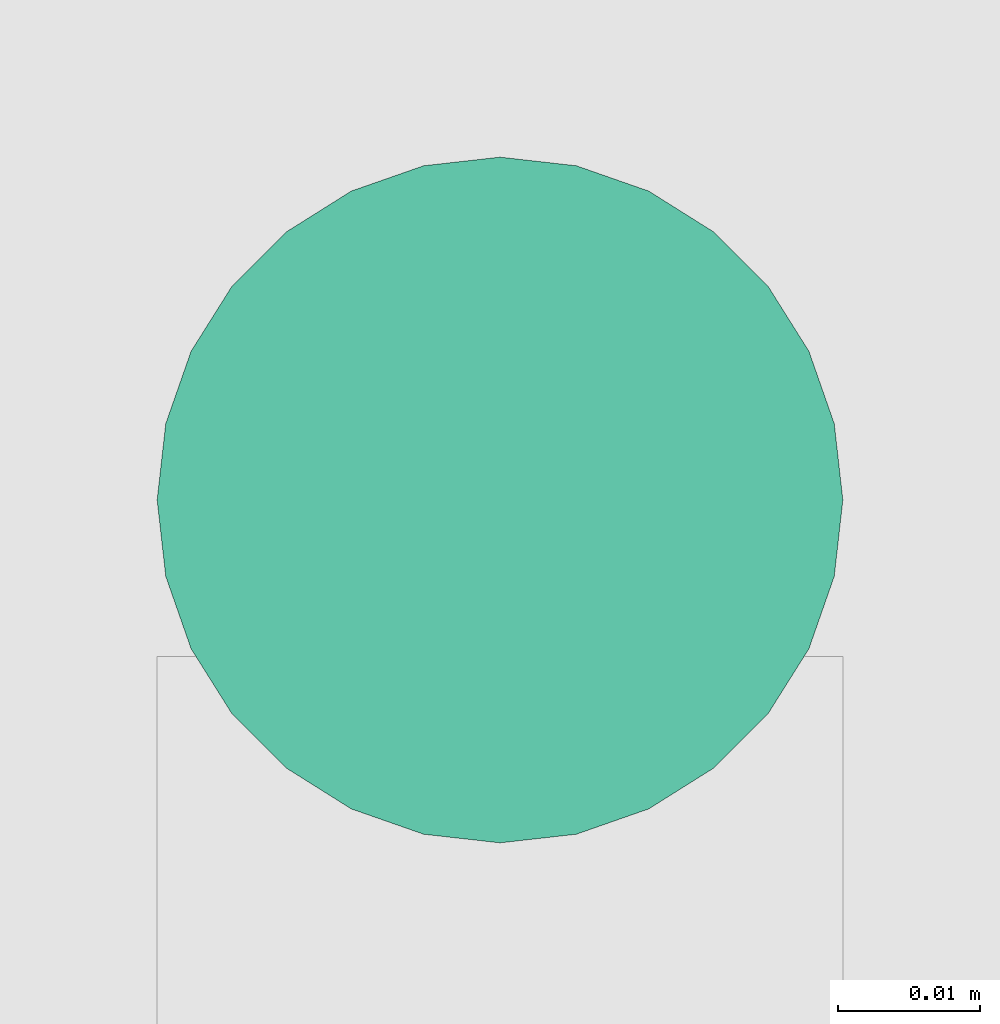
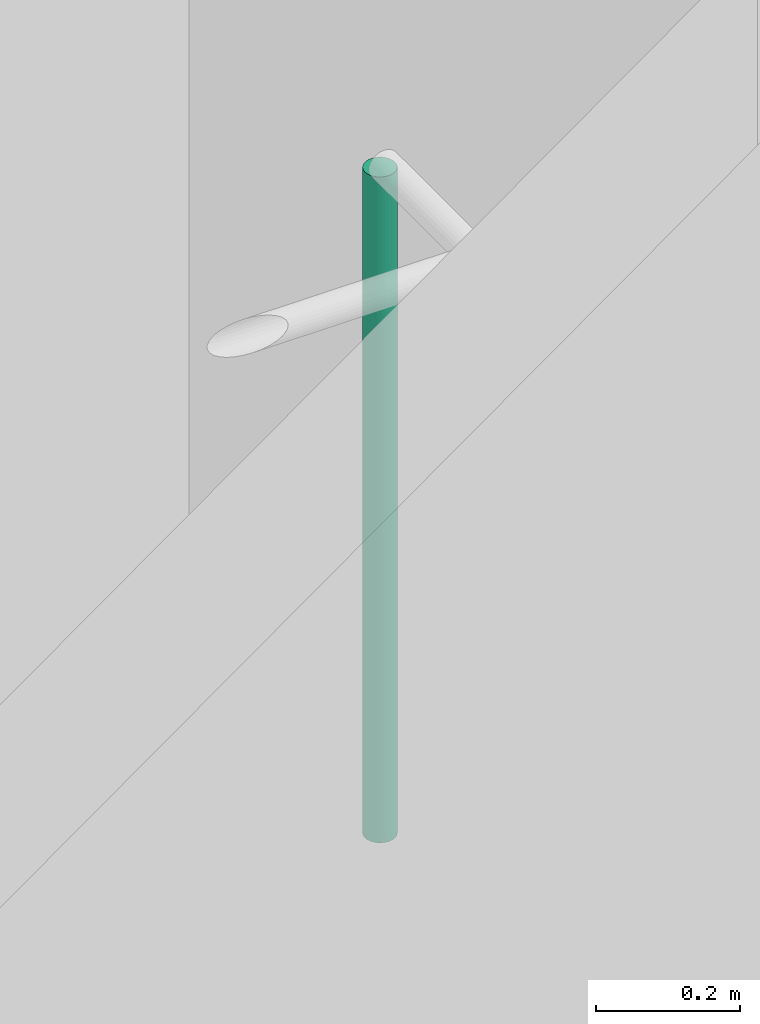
# One storey, part 19 of 71: 1 pipe segment.
"""IFC4 building model written with IfcOpenShell, lengths in centimetres."""

from ifc_helpers import new_model, entity, si_unit, converted_unit, derived_unit, direction, frame, origin, place, context, subcontext, project, spatial, arc, indexed_curve, outline, extrude, type_object, element, save


model = new_model("IFC4")

# Units and contexts
model_context = context("Model", 3, precision=0.001, world=origin(), true_north=direction((6.123233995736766e-17, 1.0)))
body_context = subcontext(model_context, "Body", "Model", "MODEL_VIEW")
ifc_project = project(units=[si_unit("LENGTHUNIT", "METRE", prefix="CENTI"), si_unit("AREAUNIT", "SQUARE_METRE"), si_unit("VOLUMEUNIT", "CUBIC_METRE"), derived_unit("THERMALTRANSMITTANCEUNIT", [(si_unit("MASSUNIT", "GRAM", prefix="KILO"), 1), (si_unit("THERMODYNAMICTEMPERATUREUNIT", "KELVIN"), -1), (si_unit("TIMEUNIT", "SECOND"), -3)]), converted_unit("PLANEANGLEUNIT", "DEGREE", entity("IfcPlaneAngleMeasure", 0.017453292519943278), si_unit("PLANEANGLEUNIT", "RADIAN"), dimensions=[0, 0, 0, 0, 0, 0, 0]), derived_unit("MASSDENSITYUNIT", [(si_unit("MASSUNIT", "GRAM", prefix="KILO"), 1), (si_unit("LENGTHUNIT", "METRE"), -3)]), derived_unit("VAPORPERMEABILITYUNIT", [(si_unit("LENGTHUNIT", "METRE"), -1), (si_unit("TIMEUNIT", "SECOND"), 1)]), derived_unit("USERDEFINED", [(si_unit("MASSUNIT", "GRAM", prefix="KILO"), 1), (si_unit("TIMEUNIT", "SECOND"), -3), (si_unit("LENGTHUNIT", "METRE"), 3), (si_unit("ELECTRICCURRENTUNIT", "AMPERE"), -2)]), derived_unit("SPECIFICHEATCAPACITYUNIT", [(si_unit("THERMODYNAMICTEMPERATUREUNIT", "KELVIN"), -1), (si_unit("LENGTHUNIT", "METRE"), 2), (si_unit("TIMEUNIT", "SECOND"), -2)]), derived_unit("THERMALCONDUCTANCEUNIT", [(si_unit("MASSUNIT", "GRAM", prefix="KILO"), 1), (si_unit("THERMODYNAMICTEMPERATUREUNIT", "KELVIN"), -1), (si_unit("TIMEUNIT", "SECOND"), -3), (si_unit("LENGTHUNIT", "METRE"), 1)]), si_unit("PRESSUREUNIT", "PASCAL"), derived_unit("MODULUSOFELASTICITYUNIT", [(si_unit("MASSUNIT", "GRAM", prefix="KILO"), 1), (si_unit("LENGTHUNIT", "METRE"), -1), (si_unit("TIMEUNIT", "SECOND"), -2)]), derived_unit("THERMALEXPANSIONCOEFFICIENTUNIT", [(si_unit("THERMODYNAMICTEMPERATUREUNIT", "KELVIN"), -1)])], contexts=[model_context])

# Site, building, storey
site_placement = place(None, origin())
site = spatial("IfcSite", under=ifc_project, at=site_placement, Name="Default", CompositionType="ELEMENT")
building_placement = place(site_placement, origin())
building = spatial("IfcBuilding", under=site, at=building_placement, Name="IDS Escape Game Building", CompositionType="ELEMENT")
storey_placement = place(building_placement, frame((0.0, 0.0, 1200.0)))
storey = spatial("IfcBuildingStorey", under=building, at=storey_placement, Name="03_Third Floor", CompositionType="ELEMENT", Elevation=1200.0)

# Pipe segment
pipe_segment_type = type_object("IfcPipeSegmentType", Name="Pipe Types:Piping Aluminum", PredefinedType="NOTDEFINED")
pipe_segment_placement = place(storey_placement, origin())
element("IfcPipeSegment", 1, at=pipe_segment_placement, inside=storey, type_object=pipe_segment_type, Name="Pipe Types:Piping Aluminum", ObjectType="Pipe Types:Piping Aluminum", PredefinedType="NOTDEFINED", context=body_context, shape_type="SweptSolid", body=[
    extrude(outline(indexed_curve([(2.412999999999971, 0.0), (1.7062486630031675, 1.7062486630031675), (0.0, 2.412999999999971), (-1.7062486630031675, 1.7062486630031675), (-2.412999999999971, 0.0), (-1.7062486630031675, -1.7062486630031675), (0.0, -2.412999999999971), (1.7062486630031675, -1.7062486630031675)], segments=[arc(1, 2, 3), arc(3, 4, 5), arc(5, 6, 7), arc(7, 8, 1)], self_intersect=False)), frame((850.1500000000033, 1324.900000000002, 128.0), z_axis=(0.0, 0.0, 1.0), x_axis=(-1.0, 0.0, 0.0)), (0.0, 0.0, 1.0), 112.90000000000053),
])

save(model, "model.ifc")
